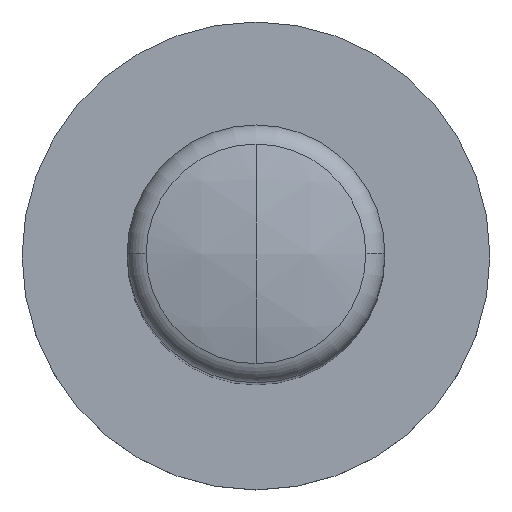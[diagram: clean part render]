
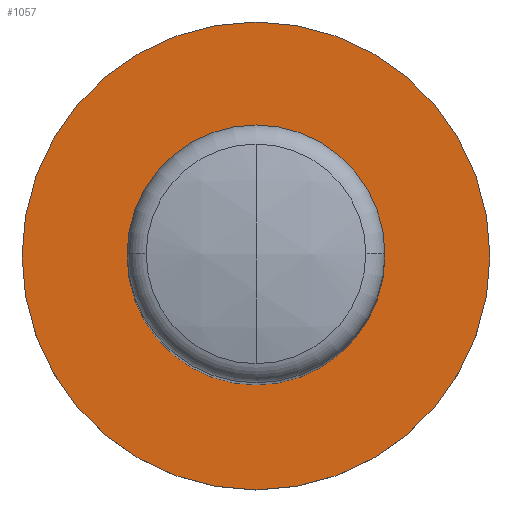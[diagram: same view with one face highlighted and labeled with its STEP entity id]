
A CAD part, top view. The second image highlights one B-rep face of the part: STEP entity #1057.
In plain terms, the highlighted planar face has unit normal (0, 0, 1).
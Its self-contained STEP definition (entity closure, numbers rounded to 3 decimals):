
#45 = DIRECTION ( 'NONE',  ( -1., 0., 0. ) ) ;
#67 = CARTESIAN_POINT ( 'NONE',  ( 0., 0., 6.375 ) ) ;
#434 = CIRCLE ( 'NONE', #705, 2.25 ) ;
#680 = EDGE_CURVE ( 'NONE', #1927, #1128, #434, .T. ) ;
#705 = AXIS2_PLACEMENT_3D ( 'NONE', #1066, #1129, #791 ) ;
#791 = DIRECTION ( 'NONE',  ( 1., 0., 0. ) ) ;
#995 = EDGE_CURVE ( 'NONE', #1128, #1927, #1323, .T. ) ;
#1039 = ORIENTED_EDGE ( 'NONE', *, *, #680, .T. ) ;
#1057 = ADVANCED_FACE ( 'NONE', ( #1319 ), #1723, .F. ) ;
#1066 = CARTESIAN_POINT ( 'NONE',  ( 0., 0., 6.375 ) ) ;
#1128 = VERTEX_POINT ( 'NONE', #1917 ) ;
#1129 = DIRECTION ( 'NONE',  ( 0., 0., 1. ) ) ;
#1223 = AXIS2_PLACEMENT_3D ( 'NONE', #67, #1701, #45 ) ;
#1319 = FACE_OUTER_BOUND ( 'NONE', #1679, .T. ) ;
#1323 = CIRCLE ( 'NONE', #2083, 2.25 ) ;
#1381 = ORIENTED_EDGE ( 'NONE', *, *, #995, .T. ) ;
#1497 = CARTESIAN_POINT ( 'NONE',  ( -2.25, 0., 6.375 ) ) ;
#1679 = EDGE_LOOP ( 'NONE', ( #1381, #1039 ) ) ;
#1701 = DIRECTION ( 'NONE',  ( 0., 0., -1. ) ) ;
#1723 = PLANE ( 'NONE',  #1223 ) ;
#1785 = DIRECTION ( 'NONE',  ( 0., 0., 1. ) ) ;
#1917 = CARTESIAN_POINT ( 'NONE',  ( 2.25, 0., 6.375 ) ) ;
#1927 = VERTEX_POINT ( 'NONE', #1497 ) ;
#2083 = AXIS2_PLACEMENT_3D ( 'NONE', #2136, #1785, #2124 ) ;
#2124 = DIRECTION ( 'NONE',  ( 1., 0., 0. ) ) ;
#2136 = CARTESIAN_POINT ( 'NONE',  ( 0., 0., 6.375 ) ) ;
